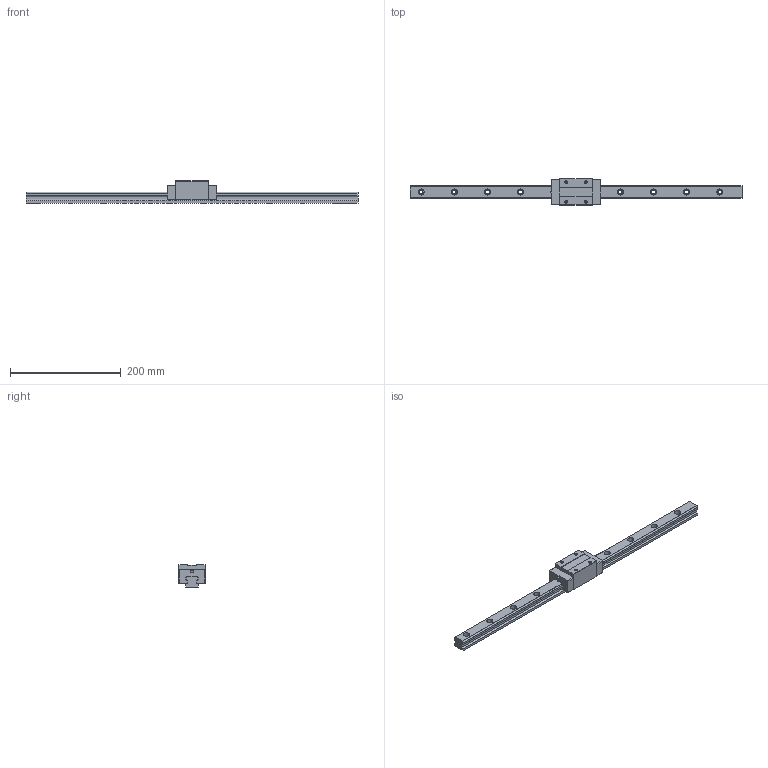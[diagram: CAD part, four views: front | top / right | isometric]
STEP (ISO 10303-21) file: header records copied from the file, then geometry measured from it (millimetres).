
FILE_DESCRIPTION (( 'STEP AP203' ), '1' );
FILE_NAME ('TRH25VN-ZN-§ï.STEP', '2023-08-30T08:31:58', ( '' ), ( '' ), 'SwSTEP 2.0', 'SolidWorks 2022', '' );
FILE_SCHEMA (( 'CONFIG_CONTROL_DESIGN' ));
Length unit declared in the file: millimetre
Products named in the file (1): TRH25VN-ZN-改
Bounding box: 600 x 48 x 40 mm (x, y, z)
Volume: 341701.4 mm3; surface area: 76191.5 mm2
Topology: 1 solids, 1 shells, 185 faces, 500 edges, 322 vertices
Faces by surface type: cylinder 88, plane 81, cone 16
Entity records: 5909 total; most frequent: DIRECTION 1050, CARTESIAN_POINT 1000, ORIENTED_EDGE 984, EDGE_CURVE 492, AXIS2_PLACEMENT_3D 372, VERTEX_POINT 322, LINE 306, VECTOR 306
